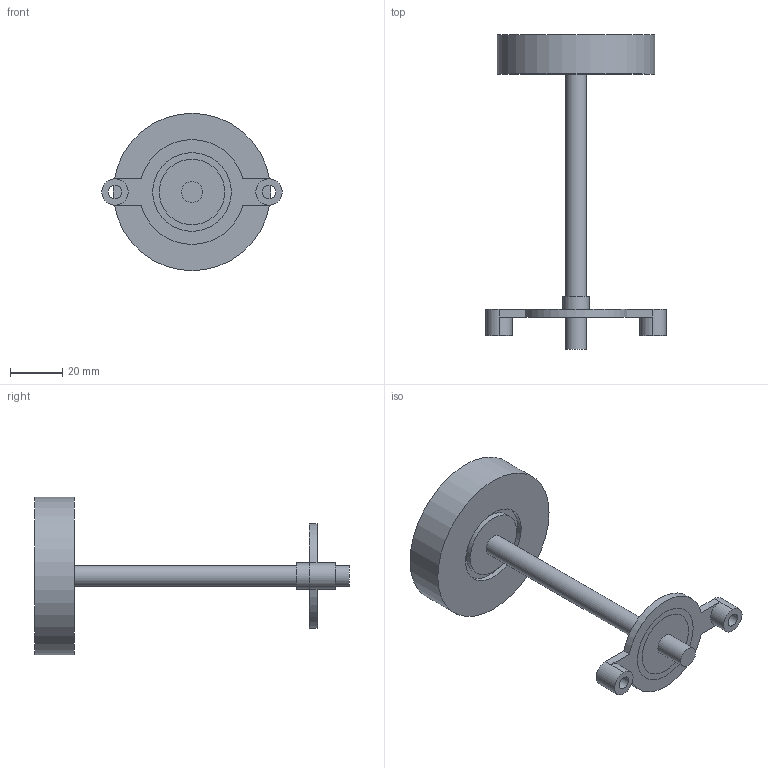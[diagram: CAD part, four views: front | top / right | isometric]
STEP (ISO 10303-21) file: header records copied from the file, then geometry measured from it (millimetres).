
FILE_DESCRIPTION(('FreeCAD Model'),'2;1');
FILE_NAME('Open CASCADE Shape Model','2025-11-24T09:24:00',(''),(''), 'Open CASCADE STEP processor 7.8','FreeCAD','Unknown');
FILE_SCHEMA(('AUTOMOTIVE_DESIGN { 1 0 10303 214 1 1 1 1 }'));
Length unit declared in the file: millimetre
Products named in the file (7): LinearSpring; MbD_part_1; MotionSim_masses_1; MbD_ELEMENT_mass_1_1; MbD_part_2; MotionSim_masses_2; MbD_ELEMENT_mass_2_2
Assembly tree (6 placements, depth 4):
  LinearSpring
    MbD_part_1
      MotionSim_masses_1
        MbD_ELEMENT_mass_1_1
    MbD_part_2
      MotionSim_masses_2
        MbD_ELEMENT_mass_2_2
Bounding box: 68.73 x 120 x 60 mm (x, y, z)
Volume: 52534.9 mm3; surface area: 15983.8 mm2
Topology: 2 solids, 2 shells, 34 faces, 62 edges, 40 vertices
Faces by surface type: plane 20, cylinder 14
Full cylindrical faces by diameter (mm): 5 x2, 8 x2, 10 x1, 25 x1, 30 x1, 60 x1
Entity records: 1001 total; most frequent: DIRECTION 177, CARTESIAN_POINT 144, ORIENTED_EDGE 124, AXIS2_PLACEMENT_3D 75, EDGE_CURVE 62, FACE_BOUND 48, EDGE_LOOP 48, VERTEX_POINT 40
